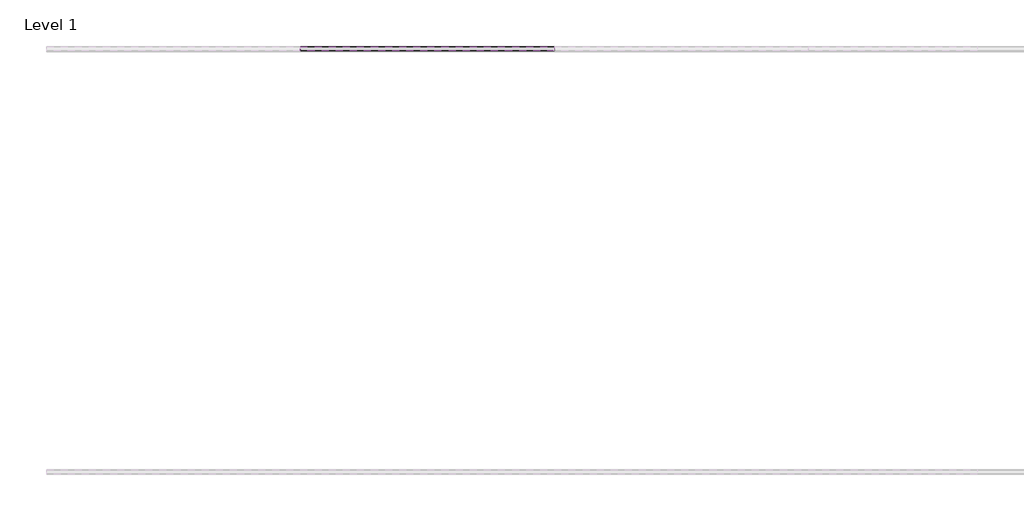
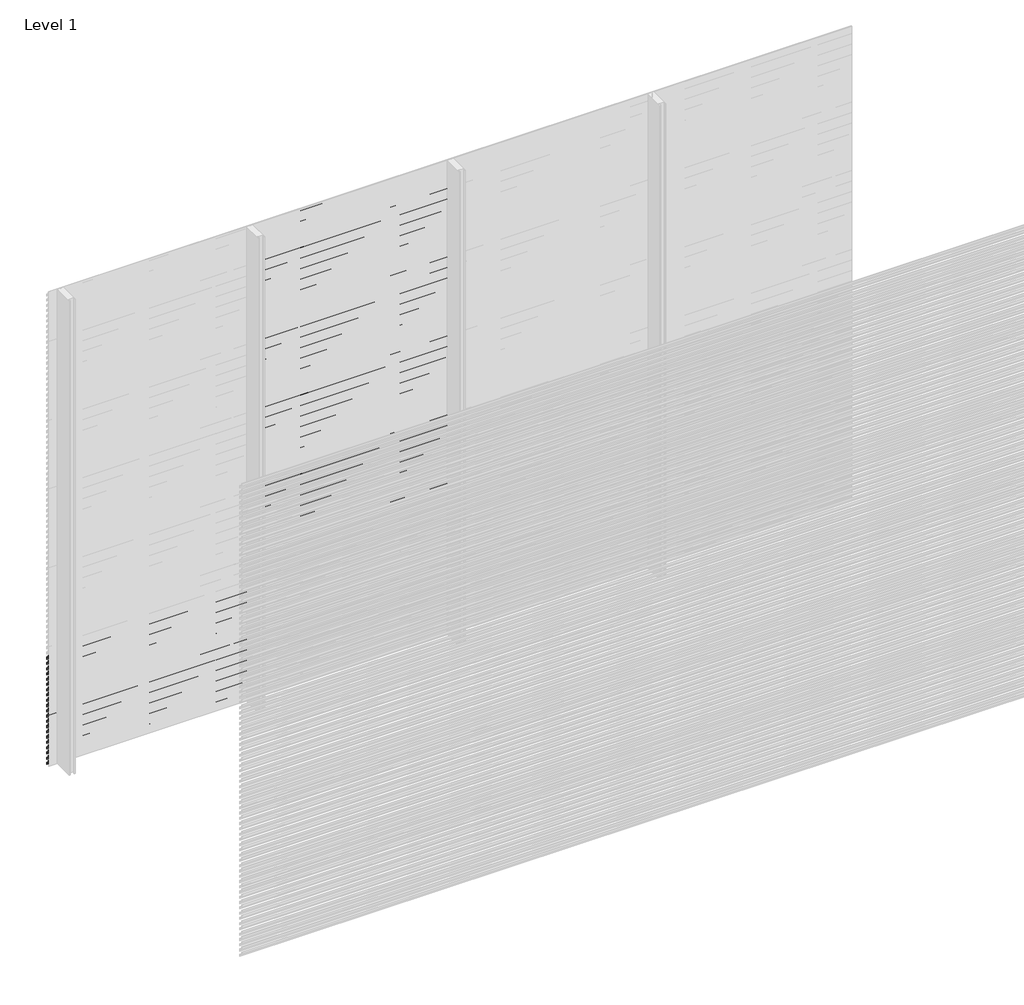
# One storey, part 18 of 507: 84 proxies.
"""IFC4 building model written with IfcOpenShell, lengths in millimetres."""

import ifcopenshell
import ifcopenshell.guid

model = None  # the IFC model being written
_history = None  # IfcOwnerHistory: only IFC2X3 demands one
_inside = {}  # id of a spatial element -> (the spatial element, [elements in it])
_under = {}  # id of a project, library or spatial element -> (it, [spatial elements below it])
_declared = {}  # id of a project -> (the project, [libraries it declares])
_typed = {}  # id of a type object -> (the type object, [elements of that type])
_made_of = {}  # id of a material, layer set ... -> (it, [elements and type objects made of it])


def new_model(schema):
    """Start an empty IFC model of exactly this schema.

    Asked for "IFC4X3", IfcOpenShell would pick the latest addendum, in which some entities
    have other attributes; the version numbers below select the first issue.
    IFC2X3 requires an IfcOwnerHistory on every rooted entity: one is made here for all.
    """
    global model, _history
    if schema == "IFC4X3":
        model = ifcopenshell.file(schema_version=(4, 3, 0, 0))
    else:
        model = ifcopenshell.file(schema=schema)
    _inside.clear()
    _under.clear()
    _declared.clear()
    _typed.clear()
    _made_of.clear()
    _history = None
    if model.schema == "IFC2X3":
        org = make("IfcOrganization", Name="unknown")
        user = make(
            "IfcPersonAndOrganization",
            ThePerson=make("IfcPerson", FamilyName="unknown"),
            TheOrganization=org,
        )
        app = make(
            "IfcApplication",
            ApplicationDeveloper=org,
            Version="unknown",
            ApplicationFullName="unknown",
            ApplicationIdentifier="unknown",
        )
        _history = make(
            "IfcOwnerHistory",
            OwningUser=user,
            OwningApplication=app,
            ChangeAction="ADDED",
            CreationDate=0,
        )
    return model


def make(cls, **values):
    """One entity of the class cls with the attributes given. An attribute that is None is left unset."""
    return model.create_entity(
        cls, **{name: value for name, value in values.items() if value is not None}
    )


def rooted(cls, **values):
    """An entity with a GlobalId (a new one), such as an element, a storey or a relation."""
    return make(cls, GlobalId=ifcopenshell.guid.new(), OwnerHistory=_history, **values)


def si_unit(unit_type, name, prefix=None):
    """IfcSIUnit, for example si_unit("LENGTHUNIT", "METRE", prefix="MILLI")."""
    return make("IfcSIUnit", UnitType=unit_type, Prefix=prefix, Name=name)


def assignment(units):
    """IfcUnitAssignment: the units of a project."""
    return None if units is None else make("IfcUnitAssignment", Units=units)


def point(xyz):
    """IfcCartesianPoint."""
    return None if xyz is None else make("IfcCartesianPoint", Coordinates=xyz)


def direction(xyz):
    """IfcDirection."""
    return None if xyz is None else make("IfcDirection", DirectionRatios=xyz)


def frame(location, z_axis=None, x_axis=None):
    """IfcAxis2Placement3D, a coordinate frame: its origin and axes. An axis left out is left unset."""
    return make(
        "IfcAxis2Placement3D",
        Location=point(location),
        Axis=direction(z_axis),
        RefDirection=direction(x_axis),
    )


def origin():
    """The frame at (0, 0, 0) with its axes left unset."""
    return frame((0.0, 0.0, 0.0))


def place(relative_to, where):
    """IfcLocalPlacement: puts the frame where relative to a parent placement (None: the world)."""
    return make(
        "IfcLocalPlacement", PlacementRelTo=relative_to, RelativePlacement=where
    )


def context(
    kind, dimensions, precision=None, world=None, true_north=None, identifier=None
):
    """IfcGeometricRepresentationContext, for example the 3D "Model" context."""
    return make(
        "IfcGeometricRepresentationContext",
        ContextIdentifier=identifier,
        ContextType=kind,
        CoordinateSpaceDimension=dimensions,
        Precision=precision,
        WorldCoordinateSystem=world,
        TrueNorth=true_north,
    )


def project(units=None, contexts=None):
    """IfcProject with its units and contexts."""
    return rooted(
        "IfcProject",
        Name="project",
        RepresentationContexts=contexts,
        UnitsInContext=assignment(units),
    )


def spatial(cls, under=None, at=None, **own):
    """A site, building, storey or space (cls), placed at a placement, below another one or the project."""
    s = rooted(cls, ObjectPlacement=at, **own)
    if under is not None:
        _under.setdefault(under.id(), (under, []))[1].append(s)
    return s


def polyline(points):
    """IfcPolyline through the points."""
    return make("IfcPolyline", Points=[point(p) for p in points])


def outline(outer, holes=None, kind="AREA"):
    """IfcArbitraryClosedProfileDef: a profile drawn as a closed curve; with holes, ...WithVoids."""
    if holes is None:
        return make("IfcArbitraryClosedProfileDef", ProfileType=kind, OuterCurve=outer)
    return make(
        "IfcArbitraryProfileDefWithVoids",
        ProfileType=kind,
        OuterCurve=outer,
        InnerCurves=holes,
    )


def extrude(swept, where, along, depth):
    """IfcExtrudedAreaSolid: the profile swept, set in the frame where, extruded along a direction by depth."""
    return make(
        "IfcExtrudedAreaSolid",
        SweptArea=swept,
        Position=where,
        ExtrudedDirection=direction(along),
        Depth=depth,
    )


def shape(context_of_items, identifier, shape_type, items):
    """IfcShapeRepresentation: the items that make up one representation, for example the "Body"."""
    return make(
        "IfcShapeRepresentation",
        ContextOfItems=context_of_items,
        RepresentationIdentifier=identifier,
        RepresentationType=shape_type,
        Items=items,
    )


def made_of(thing, what):
    """Note that an element or type object is made of a material, layer set ...; save() writes the relation."""
    if what is not None:
        _made_of.setdefault(what.id(), (what, []))[1].append(thing)
    return thing


def element(
    cls,
    number,
    at=None,
    inside=None,
    cuts=None,
    type_object=None,
    material=None,
    context=None,
    identifier="Body",
    shape_type=None,
    held_by="IfcProductDefinitionShape",
    body=None,
    shapes=None,
    **own,
):
    """One element of the class cls, such as IfcWall. Its Tag is "e" and its number.

    at: its placement. inside: the storey or other place that contains it. cuts: it is an
    opening in that element (IfcRelVoidsElement). A single representation is given by context,
    identifier, shape_type and body (its items); several are given by shapes. held_by: the class
    of the entity that holds the representations. save() writes the other relations.
    """
    e = rooted(cls, Tag="e%d" % number, ObjectPlacement=at, **own)
    if body is not None:
        shapes = [shape(context, identifier, shape_type, body)]
    if shapes is not None:
        e.Representation = make(held_by, Representations=shapes)
    if inside is not None:
        _inside.setdefault(inside.id(), (inside, []))[1].append(e)
    if cuts is not None:
        rooted(
            "IfcRelVoidsElement", RelatingBuildingElement=cuts, RelatedOpeningElement=e
        )
    if type_object is not None:
        _typed.setdefault(type_object.id(), (type_object, []))[1].append(e)
    return made_of(e, material)


def aggregate(whole, parts):
    """IfcRelAggregates: a whole, such as a stair, and the parts it consists of."""
    return rooted("IfcRelAggregates", RelatingObject=whole, RelatedObjects=parts)


def save(model, path):
    """Write the relations noted so far, then the file.

    IfcRelAggregates (storeys below a building ...), IfcRelContainedInSpatialStructure (elements
    in a storey), IfcRelDefinesByType, IfcRelAssociatesMaterial and IfcRelDeclares: one each for
    every whole, place, type object, material and project.
    """
    for whole, parts in _under.values():
        aggregate(whole, parts)
    for where, things in _inside.values():
        rooted(
            "IfcRelContainedInSpatialStructure",
            RelatedElements=things,
            RelatingStructure=where,
        )
    for kind, things in _typed.values():
        rooted("IfcRelDefinesByType", RelatedObjects=things, RelatingType=kind)
    for what, things in _made_of.values():
        rooted("IfcRelAssociatesMaterial", RelatedObjects=things, RelatingMaterial=what)
    for by, libraries in _declared.values():
        rooted("IfcRelDeclares", RelatingContext=by, RelatedDefinitions=libraries)
    model.write(path)


model = new_model("IFC4")

# Units and contexts
model_context = context("Model", 3, world=origin())
ifc_project = project(units=[si_unit("LENGTHUNIT", "METRE", prefix="MILLI")], contexts=[model_context])

# Site, building, storey
site = spatial("IfcSite", under=ifc_project)
building = spatial("IfcBuilding", under=site)
storey = spatial("IfcBuildingStorey", under=building, Name="Level 1", Elevation=0.0)

# Proxies
placement = place(None, origin())
element("IfcBuildingElementProxy", 1, Name="Wall Sweeps", at=placement, inside=storey, context=model_context, shape_type="SweptSolid", body=[
    extrude(outline(polyline([(14003.4540136, 675.3), (14003.4540136, 661.8), (14002.2040136, 662.5216933), (14002.2040136, 674.5782281), (13983.0540136, 685.6345698), (13983.0540136, 699.3), (13984.3040136, 699.3), (13984.3040136, 686.3562577), (14003.4540136, 675.3)])), frame((44966.6208097, 0.0, 0.0), z_axis=(1.0, 0.0, 0.0), x_axis=(0.0, 1.0, 0.0)), (0.0, 0.0, 1.0), 1200.0000002),
])
element("IfcBuildingElementProxy", 2, Name="Wall Sweeps", at=placement, inside=storey, context=model_context, shape_type="SweptSolid", body=[
    extrude(outline(polyline([(14003.4540136, 642.0), (14003.4540136, 628.5), (14002.2040136, 629.2216933), (14002.2040136, 641.2782281), (13983.0540136, 652.3345698), (13983.0540136, 666.0), (13984.3040136, 666.0), (13984.3040136, 653.0562577), (14003.4540136, 642.0)])), frame((44966.6208097, 0.0, 0.0), z_axis=(1.0, 0.0, 0.0), x_axis=(0.0, 1.0, 0.0)), (0.0, 0.0, 1.0), 1200.0000002),
])
element("IfcBuildingElementProxy", 3, Name="Wall Sweeps", at=placement, inside=storey, context=model_context, shape_type="SweptSolid", body=[
    extrude(outline(polyline([(14003.4540136, 608.7), (14003.4540136, 595.2), (14002.2040136, 595.9216933), (14002.2040136, 607.9782281), (13983.0540136, 619.0345698), (13983.0540136, 632.7), (13984.3040136, 632.7), (13984.3040136, 619.7562577), (14003.4540136, 608.7)])), frame((44966.6208097, 0.0, 0.0), z_axis=(1.0, 0.0, 0.0), x_axis=(0.0, 1.0, 0.0)), (0.0, 0.0, 1.0), 1200.0000002),
])
element("IfcBuildingElementProxy", 4, Name="Wall Sweeps", at=placement, inside=storey, context=model_context, shape_type="SweptSolid", body=[
    extrude(outline(polyline([(14003.4540136, 575.4), (14003.4540136, 561.9), (14002.2040136, 562.6216933), (14002.2040136, 574.6782281), (13983.0540136, 585.7345698), (13983.0540136, 599.4), (13984.3040136, 599.4), (13984.3040136, 586.4562577), (14003.4540136, 575.4)])), frame((44966.6208097, 0.0, 0.0), z_axis=(1.0, 0.0, 0.0), x_axis=(0.0, 1.0, 0.0)), (0.0, 0.0, 1.0), 1200.0000002),
])
element("IfcBuildingElementProxy", 5, Name="Wall Sweeps", at=placement, inside=storey, context=model_context, shape_type="SweptSolid", body=[
    extrude(outline(polyline([(14003.4540136, 542.1), (14003.4540136, 528.6), (14002.2040136, 529.3216933), (14002.2040136, 541.3782281), (13983.0540136, 552.4345698), (13983.0540136, 566.1), (13984.3040136, 566.1), (13984.3040136, 553.1562577), (14003.4540136, 542.1)])), frame((44966.6208097, 0.0, 0.0), z_axis=(1.0, 0.0, 0.0), x_axis=(0.0, 1.0, 0.0)), (0.0, 0.0, 1.0), 1200.0000002),
])
element("IfcBuildingElementProxy", 6, Name="Wall Sweeps", at=placement, inside=storey, context=model_context, shape_type="SweptSolid", body=[
    extrude(outline(polyline([(14003.4540136, 508.8), (14003.4540136, 495.3), (14002.2040136, 496.0216933), (14002.2040136, 508.0782281), (13983.0540136, 519.1345698), (13983.0540136, 532.8), (13984.3040136, 532.8), (13984.3040136, 519.8562577), (14003.4540136, 508.8)])), frame((44966.6208097, 0.0, 0.0), z_axis=(1.0, 0.0, 0.0), x_axis=(0.0, 1.0, 0.0)), (0.0, 0.0, 1.0), 1200.0000002),
])
element("IfcBuildingElementProxy", 7, Name="Wall Sweeps", at=placement, inside=storey, context=model_context, shape_type="SweptSolid", body=[
    extrude(outline(polyline([(14003.4540136, 475.5), (14003.4540136, 462.0), (14002.2040136, 462.7216933), (14002.2040136, 474.7782281), (13983.0540136, 485.8345698), (13983.0540136, 499.5), (13984.3040136, 499.5), (13984.3040136, 486.5562577), (14003.4540136, 475.5)])), frame((44966.6208097, 0.0, 0.0), z_axis=(1.0, 0.0, 0.0), x_axis=(0.0, 1.0, 0.0)), (0.0, 0.0, 1.0), 1200.0000002),
])
element("IfcBuildingElementProxy", 8, Name="Wall Sweeps", at=placement, inside=storey, context=model_context, shape_type="SweptSolid", body=[
    extrude(outline(polyline([(14003.4540136, 442.2), (14003.4540136, 428.7), (14002.2040136, 429.4216933), (14002.2040136, 441.4782281), (13983.0540136, 452.5345698), (13983.0540136, 466.2), (13984.3040136, 466.2), (13984.3040136, 453.2562577), (14003.4540136, 442.2)])), frame((44966.6208097, 0.0, 0.0), z_axis=(1.0, 0.0, 0.0), x_axis=(0.0, 1.0, 0.0)), (0.0, 0.0, 1.0), 1200.0000002),
])
element("IfcBuildingElementProxy", 9, Name="Wall Sweeps", at=placement, inside=storey, context=model_context, shape_type="SweptSolid", body=[
    extrude(outline(polyline([(14003.4540136, 408.9), (14003.4540136, 395.4), (14002.2040136, 396.1216933), (14002.2040136, 408.1782281), (13983.0540136, 419.2345698), (13983.0540136, 432.9), (13984.3040136, 432.9), (13984.3040136, 419.9562577), (14003.4540136, 408.9)])), frame((44966.6208097, 0.0, 0.0), z_axis=(1.0, 0.0, 0.0), x_axis=(0.0, 1.0, 0.0)), (0.0, 0.0, 1.0), 1200.0000002),
])
element("IfcBuildingElementProxy", 10, Name="Wall Sweeps", at=placement, inside=storey, context=model_context, shape_type="SweptSolid", body=[
    extrude(outline(polyline([(14003.4540136, 375.6), (14003.4540136, 362.1), (14002.2040136, 362.8216933), (14002.2040136, 374.8782281), (13983.0540136, 385.9345698), (13983.0540136, 399.6), (13984.3040136, 399.6), (13984.3040136, 386.6562577), (14003.4540136, 375.6)])), frame((44966.6208097, 0.0, 0.0), z_axis=(1.0, 0.0, 0.0), x_axis=(0.0, 1.0, 0.0)), (0.0, 0.0, 1.0), 1200.0000002),
])
element("IfcBuildingElementProxy", 11, Name="Wall Sweeps", at=placement, inside=storey, context=model_context, shape_type="SweptSolid", body=[
    extrude(outline(polyline([(14003.4540136, 342.3), (14003.4540136, 328.8), (14002.2040136, 329.5216933), (14002.2040136, 341.5782281), (13983.0540136, 352.6345698), (13983.0540136, 366.3), (13984.3040136, 366.3), (13984.3040136, 353.3562577), (14003.4540136, 342.3)])), frame((44966.6208097, 0.0, 0.0), z_axis=(1.0, 0.0, 0.0), x_axis=(0.0, 1.0, 0.0)), (0.0, 0.0, 1.0), 1200.0000002),
])
element("IfcBuildingElementProxy", 12, Name="Wall Sweeps", at=placement, inside=storey, context=model_context, shape_type="SweptSolid", body=[
    extrude(outline(polyline([(14003.4540136, 309.0), (14003.4540136, 295.5), (14002.2040136, 296.2216933), (14002.2040136, 308.2782281), (13983.0540136, 319.3345698), (13983.0540136, 333.0), (13984.3040136, 333.0), (13984.3040136, 320.0562577), (14003.4540136, 309.0)])), frame((44966.6208097, 0.0, 0.0), z_axis=(1.0, 0.0, 0.0), x_axis=(0.0, 1.0, 0.0)), (0.0, 0.0, 1.0), 1200.0000002),
])
element("IfcBuildingElementProxy", 13, Name="Wall Sweeps", at=placement, inside=storey, context=model_context, shape_type="SweptSolid", body=[
    extrude(outline(polyline([(14003.4540136, 275.7), (14003.4540136, 262.2), (14002.2040136, 262.9216933), (14002.2040136, 274.9782281), (13983.0540136, 286.0345698), (13983.0540136, 299.7), (13984.3040136, 299.7), (13984.3040136, 286.7562577), (14003.4540136, 275.7)])), frame((44966.6208097, 0.0, 0.0), z_axis=(1.0, 0.0, 0.0), x_axis=(0.0, 1.0, 0.0)), (0.0, 0.0, 1.0), 1200.0000002),
])
element("IfcBuildingElementProxy", 14, Name="Wall Sweeps", at=placement, inside=storey, context=model_context, shape_type="SweptSolid", body=[
    extrude(outline(polyline([(14003.4540136, 242.4), (14003.4540136, 228.9), (14002.2040136, 229.6216933), (14002.2040136, 241.6782281), (13983.0540136, 252.7345698), (13983.0540136, 266.4), (13984.3040136, 266.4), (13984.3040136, 253.4562577), (14003.4540136, 242.4)])), frame((44966.6208097, 0.0, 0.0), z_axis=(1.0, 0.0, 0.0), x_axis=(0.0, 1.0, 0.0)), (0.0, 0.0, 1.0), 1200.0000002),
])
element("IfcBuildingElementProxy", 15, Name="Wall Sweeps", at=placement, inside=storey, context=model_context, shape_type="SweptSolid", body=[
    extrude(outline(polyline([(14003.4540136, 209.1), (14003.4540136, 195.6), (14002.2040136, 196.3216933), (14002.2040136, 208.3782281), (13983.0540136, 219.4345698), (13983.0540136, 233.1), (13984.3040136, 233.1), (13984.3040136, 220.1562577), (14003.4540136, 209.1)])), frame((44966.6208097, 0.0, 0.0), z_axis=(1.0, 0.0, 0.0), x_axis=(0.0, 1.0, 0.0)), (0.0, 0.0, 1.0), 1200.0000002),
])
element("IfcBuildingElementProxy", 16, Name="Wall Sweeps", at=placement, inside=storey, context=model_context, shape_type="SweptSolid", body=[
    extrude(outline(polyline([(14003.4540136, 175.8), (14003.4540136, 162.3), (14002.2040136, 163.0216933), (14002.2040136, 175.0782281), (13983.0540136, 186.1345698), (13983.0540136, 199.8), (13984.3040136, 199.8), (13984.3040136, 186.8562577), (14003.4540136, 175.8)])), frame((44966.6208097, 0.0, 0.0), z_axis=(1.0, 0.0, 0.0), x_axis=(0.0, 1.0, 0.0)), (0.0, 0.0, 1.0), 1200.0000002),
])
element("IfcBuildingElementProxy", 17, Name="Wall Sweeps", at=placement, inside=storey, context=model_context, shape_type="SweptSolid", body=[
    extrude(outline(polyline([(14003.4540136, 142.5), (14003.4540136, 129.0), (14002.2040136, 129.7216933), (14002.2040136, 141.7782281), (13983.0540136, 152.8345698), (13983.0540136, 166.5), (13984.3040136, 166.5), (13984.3040136, 153.5562577), (14003.4540136, 142.5)])), frame((44966.6208097, 0.0, 0.0), z_axis=(1.0, 0.0, 0.0), x_axis=(0.0, 1.0, 0.0)), (0.0, 0.0, 1.0), 1200.0000002),
])
element("IfcBuildingElementProxy", 18, Name="Wall Sweeps", at=placement, inside=storey, context=model_context, shape_type="SweptSolid", body=[
    extrude(outline(polyline([(14003.4540136, 109.2), (14003.4540136, 95.7), (14002.2040136, 96.4216933), (14002.2040136, 108.4782281), (13983.0540136, 119.5345698), (13983.0540136, 133.2), (13984.3040136, 133.2), (13984.3040136, 120.2562577), (14003.4540136, 109.2)])), frame((44966.6208097, 0.0, 0.0), z_axis=(1.0, 0.0, 0.0), x_axis=(0.0, 1.0, 0.0)), (0.0, 0.0, 1.0), 1200.0000002),
])
element("IfcBuildingElementProxy", 19, Name="Wall Sweeps", at=placement, inside=storey, context=model_context, shape_type="SweptSolid", body=[
    extrude(outline(polyline([(14003.4540136, 75.9), (14003.4540136, 62.4), (14002.2040136, 63.1216933), (14002.2040136, 75.1782281), (13983.0540136, 86.2345698), (13983.0540136, 99.9), (13984.3040136, 99.9), (13984.3040136, 86.9562577), (14003.4540136, 75.9)])), frame((44966.6208097, 0.0, 0.0), z_axis=(1.0, 0.0, 0.0), x_axis=(0.0, 1.0, 0.0)), (0.0, 0.0, 1.0), 1200.0000002),
])
element("IfcBuildingElementProxy", 20, Name="Wall Sweeps", at=placement, inside=storey, context=model_context, shape_type="SweptSolid", body=[
    extrude(outline(polyline([(14003.4540136, 42.6), (14003.4540136, 29.1), (14002.2040136, 29.8216933), (14002.2040136, 41.8782281), (13983.0540136, 52.9345698), (13983.0540136, 66.6), (13984.3040136, 66.6), (13984.3040136, 53.6562577), (14003.4540136, 42.6)])), frame((44966.6208097, 0.0, 0.0), z_axis=(1.0, 0.0, 0.0), x_axis=(0.0, 1.0, 0.0)), (0.0, 0.0, 1.0), 1200.0000002),
])
element("IfcBuildingElementProxy", 21, Name="Wall Sweeps", at=placement, inside=storey, context=model_context, shape_type="SweptSolid", body=[
    extrude(outline(polyline([(14003.4540136, 9.3), (14003.4540136, -4.2), (14002.2040136, -3.4783067), (14002.2040136, 8.5782281), (13983.0540136, 19.6345698), (13983.0540136, 33.3), (13984.3040136, 33.3), (13984.3040136, 20.3562577), (14003.4540136, 9.3)])), frame((44966.6208097, 0.0, 0.0), z_axis=(1.0, 0.0, 0.0), x_axis=(0.0, 1.0, 0.0)), (0.0, 0.0, 1.0), 1200.0000002),
])
element("IfcBuildingElementProxy", 22, Name="Wall Sweeps", at=placement, inside=storey, context=model_context, shape_type="SweptSolid", body=[
    extrude(outline(polyline([(14003.4540136, 2973.0), (14003.4540136, 2959.5), (14002.2040136, 2960.2216933), (14002.2040136, 2972.2782281), (13983.0540136, 2983.3345698), (13983.0540136, 2997.0), (13984.3040136, 2997.0), (13984.3040136, 2984.0562577), (14003.4540136, 2973.0)])), frame((46166.6208099, 0.0, 0.0), z_axis=(1.0, 0.0, 0.0), x_axis=(0.0, 1.0, 0.0)), (0.0, 0.0, 1.0), 1199.9999999),
])
element("IfcBuildingElementProxy", 23, Name="Wall Sweeps", at=placement, inside=storey, context=model_context, shape_type="SweptSolid", body=[
    extrude(outline(polyline([(14003.4540136, 2939.7), (14003.4540136, 2926.2), (14002.2040136, 2926.9216933), (14002.2040136, 2938.9782281), (13983.0540136, 2950.0345698), (13983.0540136, 2963.7), (13984.3040136, 2963.7), (13984.3040136, 2950.7562577), (14003.4540136, 2939.7)])), frame((46166.6208099, 0.0, 0.0), z_axis=(1.0, 0.0, 0.0), x_axis=(0.0, 1.0, 0.0)), (0.0, 0.0, 1.0), 1199.9999999),
])
element("IfcBuildingElementProxy", 24, Name="Wall Sweeps", at=placement, inside=storey, context=model_context, shape_type="SweptSolid", body=[
    extrude(outline(polyline([(14003.4540136, 2906.4), (14003.4540136, 2892.9), (14002.2040136, 2893.6216933), (14002.2040136, 2905.6782281), (13983.0540136, 2916.7345698), (13983.0540136, 2930.4), (13984.3040136, 2930.4), (13984.3040136, 2917.4562577), (14003.4540136, 2906.4)])), frame((46166.6208099, 0.0, 0.0), z_axis=(1.0, 0.0, 0.0), x_axis=(0.0, 1.0, 0.0)), (0.0, 0.0, 1.0), 1199.9999999),
])
element("IfcBuildingElementProxy", 25, Name="Wall Sweeps", at=placement, inside=storey, context=model_context, shape_type="SweptSolid", body=[
    extrude(outline(polyline([(14003.4540136, 2873.1), (14003.4540136, 2859.6), (14002.2040136, 2860.3216933), (14002.2040136, 2872.3782281), (13983.0540136, 2883.4345698), (13983.0540136, 2897.1), (13984.3040136, 2897.1), (13984.3040136, 2884.1562577), (14003.4540136, 2873.1)])), frame((46166.6208099, 0.0, 0.0), z_axis=(1.0, 0.0, 0.0), x_axis=(0.0, 1.0, 0.0)), (0.0, 0.0, 1.0), 1199.9999999),
])
element("IfcBuildingElementProxy", 26, Name="Wall Sweeps", at=placement, inside=storey, context=model_context, shape_type="SweptSolid", body=[
    extrude(outline(polyline([(14003.4540136, 2839.8), (14003.4540136, 2826.3), (14002.2040136, 2827.0216933), (14002.2040136, 2839.0782281), (13983.0540136, 2850.1345698), (13983.0540136, 2863.8), (13984.3040136, 2863.8), (13984.3040136, 2850.8562577), (14003.4540136, 2839.8)])), frame((46166.6208099, 0.0, 0.0), z_axis=(1.0, 0.0, 0.0), x_axis=(0.0, 1.0, 0.0)), (0.0, 0.0, 1.0), 1199.9999999),
])
element("IfcBuildingElementProxy", 27, Name="Wall Sweeps", at=placement, inside=storey, context=model_context, shape_type="SweptSolid", body=[
    extrude(outline(polyline([(14003.4540136, 2806.5), (14003.4540136, 2793.0), (14002.2040136, 2793.7216933), (14002.2040136, 2805.7782281), (13983.0540136, 2816.8345698), (13983.0540136, 2830.5), (13984.3040136, 2830.5), (13984.3040136, 2817.5562577), (14003.4540136, 2806.5)])), frame((46166.6208099, 0.0, 0.0), z_axis=(1.0, 0.0, 0.0), x_axis=(0.0, 1.0, 0.0)), (0.0, 0.0, 1.0), 1199.9999999),
])
element("IfcBuildingElementProxy", 28, Name="Wall Sweeps", at=placement, inside=storey, context=model_context, shape_type="SweptSolid", body=[
    extrude(outline(polyline([(14003.4540136, 2773.2), (14003.4540136, 2759.7), (14002.2040136, 2760.4216933), (14002.2040136, 2772.4782281), (13983.0540136, 2783.5345698), (13983.0540136, 2797.2), (13984.3040136, 2797.2), (13984.3040136, 2784.2562577), (14003.4540136, 2773.2)])), frame((46166.6208099, 0.0, 0.0), z_axis=(1.0, 0.0, 0.0), x_axis=(0.0, 1.0, 0.0)), (0.0, 0.0, 1.0), 1199.9999999),
])
element("IfcBuildingElementProxy", 29, Name="Wall Sweeps", at=placement, inside=storey, context=model_context, shape_type="SweptSolid", body=[
    extrude(outline(polyline([(14003.4540136, 2739.9), (14003.4540136, 2726.4), (14002.2040136, 2727.1216933), (14002.2040136, 2739.1782281), (13983.0540136, 2750.2345698), (13983.0540136, 2763.9), (13984.3040136, 2763.9), (13984.3040136, 2750.9562577), (14003.4540136, 2739.9)])), frame((46166.6208099, 0.0, 0.0), z_axis=(1.0, 0.0, 0.0), x_axis=(0.0, 1.0, 0.0)), (0.0, 0.0, 1.0), 1199.9999999),
])
element("IfcBuildingElementProxy", 30, Name="Wall Sweeps", at=placement, inside=storey, context=model_context, shape_type="SweptSolid", body=[
    extrude(outline(polyline([(14003.4540136, 2706.6), (14003.4540136, 2693.1), (14002.2040136, 2693.8216933), (14002.2040136, 2705.8782281), (13983.0540136, 2716.9345698), (13983.0540136, 2730.6), (13984.3040136, 2730.6), (13984.3040136, 2717.6562577), (14003.4540136, 2706.6)])), frame((46166.6208099, 0.0, 0.0), z_axis=(1.0, 0.0, 0.0), x_axis=(0.0, 1.0, 0.0)), (0.0, 0.0, 1.0), 1199.9999999),
])
element("IfcBuildingElementProxy", 31, Name="Wall Sweeps", at=placement, inside=storey, context=model_context, shape_type="SweptSolid", body=[
    extrude(outline(polyline([(14003.4540136, 2673.3), (14003.4540136, 2659.8), (14002.2040136, 2660.5216933), (14002.2040136, 2672.5782281), (13983.0540136, 2683.6345698), (13983.0540136, 2697.3), (13984.3040136, 2697.3), (13984.3040136, 2684.3562577), (14003.4540136, 2673.3)])), frame((46166.6208099, 0.0, 0.0), z_axis=(1.0, 0.0, 0.0), x_axis=(0.0, 1.0, 0.0)), (0.0, 0.0, 1.0), 1199.9999999),
])
element("IfcBuildingElementProxy", 32, Name="Wall Sweeps", at=placement, inside=storey, context=model_context, shape_type="SweptSolid", body=[
    extrude(outline(polyline([(14003.4540136, 2640.0), (14003.4540136, 2626.5), (14002.2040136, 2627.2216933), (14002.2040136, 2639.2782281), (13983.0540136, 2650.3345698), (13983.0540136, 2664.0), (13984.3040136, 2664.0), (13984.3040136, 2651.0562577), (14003.4540136, 2640.0)])), frame((46166.6208099, 0.0, 0.0), z_axis=(1.0, 0.0, 0.0), x_axis=(0.0, 1.0, 0.0)), (0.0, 0.0, 1.0), 1199.9999999),
])
element("IfcBuildingElementProxy", 33, Name="Wall Sweeps", at=placement, inside=storey, context=model_context, shape_type="SweptSolid", body=[
    extrude(outline(polyline([(14003.4540136, 2606.7), (14003.4540136, 2593.2), (14002.2040136, 2593.9216933), (14002.2040136, 2605.9782281), (13983.0540136, 2617.0345698), (13983.0540136, 2630.7), (13984.3040136, 2630.7), (13984.3040136, 2617.7562577), (14003.4540136, 2606.7)])), frame((46166.6208099, 0.0, 0.0), z_axis=(1.0, 0.0, 0.0), x_axis=(0.0, 1.0, 0.0)), (0.0, 0.0, 1.0), 1199.9999999),
])
element("IfcBuildingElementProxy", 34, Name="Wall Sweeps", at=placement, inside=storey, context=model_context, shape_type="SweptSolid", body=[
    extrude(outline(polyline([(14003.4540136, 2573.4), (14003.4540136, 2559.9), (14002.2040136, 2560.6216933), (14002.2040136, 2572.6782281), (13983.0540136, 2583.7345698), (13983.0540136, 2597.4), (13984.3040136, 2597.4), (13984.3040136, 2584.4562577), (14003.4540136, 2573.4)])), frame((46166.6208099, 0.0, 0.0), z_axis=(1.0, 0.0, 0.0), x_axis=(0.0, 1.0, 0.0)), (0.0, 0.0, 1.0), 1199.9999999),
])
element("IfcBuildingElementProxy", 35, Name="Wall Sweeps", at=placement, inside=storey, context=model_context, shape_type="SweptSolid", body=[
    extrude(outline(polyline([(14003.4540136, 2540.1), (14003.4540136, 2526.6), (14002.2040136, 2527.3216933), (14002.2040136, 2539.3782281), (13983.0540136, 2550.4345698), (13983.0540136, 2564.1), (13984.3040136, 2564.1), (13984.3040136, 2551.1562577), (14003.4540136, 2540.1)])), frame((46166.6208099, 0.0, 0.0), z_axis=(1.0, 0.0, 0.0), x_axis=(0.0, 1.0, 0.0)), (0.0, 0.0, 1.0), 1199.9999999),
])
element("IfcBuildingElementProxy", 36, Name="Wall Sweeps", at=placement, inside=storey, context=model_context, shape_type="SweptSolid", body=[
    extrude(outline(polyline([(14003.4540136, 2506.8), (14003.4540136, 2493.3), (14002.2040136, 2494.0216933), (14002.2040136, 2506.0782281), (13983.0540136, 2517.1345698), (13983.0540136, 2530.8), (13984.3040136, 2530.8), (13984.3040136, 2517.8562577), (14003.4540136, 2506.8)])), frame((46166.6208099, 0.0, 0.0), z_axis=(1.0, 0.0, 0.0), x_axis=(0.0, 1.0, 0.0)), (0.0, 0.0, 1.0), 1199.9999999),
])
element("IfcBuildingElementProxy", 37, Name="Wall Sweeps", at=placement, inside=storey, context=model_context, shape_type="SweptSolid", body=[
    extrude(outline(polyline([(14003.4540136, 2473.5), (14003.4540136, 2460.0), (14002.2040136, 2460.7216933), (14002.2040136, 2472.7782281), (13983.0540136, 2483.8345698), (13983.0540136, 2497.5), (13984.3040136, 2497.5), (13984.3040136, 2484.5562577), (14003.4540136, 2473.5)])), frame((46166.6208099, 0.0, 0.0), z_axis=(1.0, 0.0, 0.0), x_axis=(0.0, 1.0, 0.0)), (0.0, 0.0, 1.0), 1199.9999999),
])
element("IfcBuildingElementProxy", 38, Name="Wall Sweeps", at=placement, inside=storey, context=model_context, shape_type="SweptSolid", body=[
    extrude(outline(polyline([(14003.4540136, 2440.2), (14003.4540136, 2426.7), (14002.2040136, 2427.4216933), (14002.2040136, 2439.4782281), (13983.0540136, 2450.5345698), (13983.0540136, 2464.2), (13984.3040136, 2464.2), (13984.3040136, 2451.2562577), (14003.4540136, 2440.2)])), frame((46166.6208099, 0.0, 0.0), z_axis=(1.0, 0.0, 0.0), x_axis=(0.0, 1.0, 0.0)), (0.0, 0.0, 1.0), 1199.9999999),
])
element("IfcBuildingElementProxy", 39, Name="Wall Sweeps", at=placement, inside=storey, context=model_context, shape_type="SweptSolid", body=[
    extrude(outline(polyline([(14003.4540136, 2406.9), (14003.4540136, 2393.4), (14002.2040136, 2394.1216933), (14002.2040136, 2406.1782281), (13983.0540136, 2417.2345698), (13983.0540136, 2430.9), (13984.3040136, 2430.9), (13984.3040136, 2417.9562577), (14003.4540136, 2406.9)])), frame((46166.6208099, 0.0, 0.0), z_axis=(1.0, 0.0, 0.0), x_axis=(0.0, 1.0, 0.0)), (0.0, 0.0, 1.0), 1199.9999999),
])
element("IfcBuildingElementProxy", 40, Name="Wall Sweeps", at=placement, inside=storey, context=model_context, shape_type="SweptSolid", body=[
    extrude(outline(polyline([(14003.4540136, 2373.6), (14003.4540136, 2360.1), (14002.2040136, 2360.8216933), (14002.2040136, 2372.8782281), (13983.0540136, 2383.9345698), (13983.0540136, 2397.6), (13984.3040136, 2397.6), (13984.3040136, 2384.6562577), (14003.4540136, 2373.6)])), frame((46166.6208099, 0.0, 0.0), z_axis=(1.0, 0.0, 0.0), x_axis=(0.0, 1.0, 0.0)), (0.0, 0.0, 1.0), 1199.9999999),
])
element("IfcBuildingElementProxy", 41, Name="Wall Sweeps", at=placement, inside=storey, context=model_context, shape_type="SweptSolid", body=[
    extrude(outline(polyline([(14003.4540136, 2340.3), (14003.4540136, 2326.8), (14002.2040136, 2327.5216933), (14002.2040136, 2339.5782281), (13983.0540136, 2350.6345698), (13983.0540136, 2364.3), (13984.3040136, 2364.3), (13984.3040136, 2351.3562577), (14003.4540136, 2340.3)])), frame((46166.6208099, 0.0, 0.0), z_axis=(1.0, 0.0, 0.0), x_axis=(0.0, 1.0, 0.0)), (0.0, 0.0, 1.0), 1199.9999999),
])
element("IfcBuildingElementProxy", 42, Name="Wall Sweeps", at=placement, inside=storey, context=model_context, shape_type="SweptSolid", body=[
    extrude(outline(polyline([(14003.4540136, 2307.0), (14003.4540136, 2293.5), (14002.2040136, 2294.2216933), (14002.2040136, 2306.2782281), (13983.0540136, 2317.3345698), (13983.0540136, 2331.0), (13984.3040136, 2331.0), (13984.3040136, 2318.0562577), (14003.4540136, 2307.0)])), frame((46166.6208099, 0.0, 0.0), z_axis=(1.0, 0.0, 0.0), x_axis=(0.0, 1.0, 0.0)), (0.0, 0.0, 1.0), 1199.9999999),
])
element("IfcBuildingElementProxy", 43, Name="Wall Sweeps", at=placement, inside=storey, context=model_context, shape_type="SweptSolid", body=[
    extrude(outline(polyline([(14003.4540136, 2273.7), (14003.4540136, 2260.2), (14002.2040136, 2260.9216933), (14002.2040136, 2272.9782281), (13983.0540136, 2284.0345698), (13983.0540136, 2297.7), (13984.3040136, 2297.7), (13984.3040136, 2284.7562577), (14003.4540136, 2273.7)])), frame((46166.6208099, 0.0, 0.0), z_axis=(1.0, 0.0, 0.0), x_axis=(0.0, 1.0, 0.0)), (0.0, 0.0, 1.0), 1199.9999999),
])
element("IfcBuildingElementProxy", 44, Name="Wall Sweeps", at=placement, inside=storey, context=model_context, shape_type="SweptSolid", body=[
    extrude(outline(polyline([(14003.4540136, 2240.4), (14003.4540136, 2226.9), (14002.2040136, 2227.6216933), (14002.2040136, 2239.6782281), (13983.0540136, 2250.7345698), (13983.0540136, 2264.4), (13984.3040136, 2264.4), (13984.3040136, 2251.4562577), (14003.4540136, 2240.4)])), frame((46166.6208099, 0.0, 0.0), z_axis=(1.0, 0.0, 0.0), x_axis=(0.0, 1.0, 0.0)), (0.0, 0.0, 1.0), 1199.9999999),
])
element("IfcBuildingElementProxy", 45, Name="Wall Sweeps", at=placement, inside=storey, context=model_context, shape_type="SweptSolid", body=[
    extrude(outline(polyline([(14003.4540136, 2207.1), (14003.4540136, 2193.6), (14002.2040136, 2194.3216933), (14002.2040136, 2206.3782281), (13983.0540136, 2217.4345698), (13983.0540136, 2231.1), (13984.3040136, 2231.1), (13984.3040136, 2218.1562577), (14003.4540136, 2207.1)])), frame((46166.6208099, 0.0, 0.0), z_axis=(1.0, 0.0, 0.0), x_axis=(0.0, 1.0, 0.0)), (0.0, 0.0, 1.0), 1199.9999999),
])
element("IfcBuildingElementProxy", 46, Name="Wall Sweeps", at=placement, inside=storey, context=model_context, shape_type="SweptSolid", body=[
    extrude(outline(polyline([(14003.4540136, 2173.8), (14003.4540136, 2160.3), (14002.2040136, 2161.0216933), (14002.2040136, 2173.0782281), (13983.0540136, 2184.1345698), (13983.0540136, 2197.8), (13984.3040136, 2197.8), (13984.3040136, 2184.8562577), (14003.4540136, 2173.8)])), frame((46166.6208099, 0.0, 0.0), z_axis=(1.0, 0.0, 0.0), x_axis=(0.0, 1.0, 0.0)), (0.0, 0.0, 1.0), 1199.9999999),
])
element("IfcBuildingElementProxy", 47, Name="Wall Sweeps", at=placement, inside=storey, context=model_context, shape_type="SweptSolid", body=[
    extrude(outline(polyline([(14003.4540136, 2140.5), (14003.4540136, 2127.0), (14002.2040136, 2127.7216933), (14002.2040136, 2139.7782281), (13983.0540136, 2150.8345698), (13983.0540136, 2164.5), (13984.3040136, 2164.5), (13984.3040136, 2151.5562577), (14003.4540136, 2140.5)])), frame((46166.6208099, 0.0, 0.0), z_axis=(1.0, 0.0, 0.0), x_axis=(0.0, 1.0, 0.0)), (0.0, 0.0, 1.0), 1199.9999999),
])
element("IfcBuildingElementProxy", 48, Name="Wall Sweeps", at=placement, inside=storey, context=model_context, shape_type="SweptSolid", body=[
    extrude(outline(polyline([(14003.4540136, 2107.2), (14003.4540136, 2093.7), (14002.2040136, 2094.4216933), (14002.2040136, 2106.4782281), (13983.0540136, 2117.5345698), (13983.0540136, 2131.2), (13984.3040136, 2131.2), (13984.3040136, 2118.2562577), (14003.4540136, 2107.2)])), frame((46166.6208099, 0.0, 0.0), z_axis=(1.0, 0.0, 0.0), x_axis=(0.0, 1.0, 0.0)), (0.0, 0.0, 1.0), 1199.9999999),
])
element("IfcBuildingElementProxy", 49, Name="Wall Sweeps", at=placement, inside=storey, context=model_context, shape_type="SweptSolid", body=[
    extrude(outline(polyline([(14003.4540136, 2073.9), (14003.4540136, 2060.4), (14002.2040136, 2061.1216933), (14002.2040136, 2073.1782281), (13983.0540136, 2084.2345698), (13983.0540136, 2097.9), (13984.3040136, 2097.9), (13984.3040136, 2084.9562577), (14003.4540136, 2073.9)])), frame((46166.6208099, 0.0, 0.0), z_axis=(1.0, 0.0, 0.0), x_axis=(0.0, 1.0, 0.0)), (0.0, 0.0, 1.0), 1199.9999999),
])
element("IfcBuildingElementProxy", 50, Name="Wall Sweeps", at=placement, inside=storey, context=model_context, shape_type="SweptSolid", body=[
    extrude(outline(polyline([(14003.4540136, 2040.6), (14003.4540136, 2027.1), (14002.2040136, 2027.8216933), (14002.2040136, 2039.8782281), (13983.0540136, 2050.9345698), (13983.0540136, 2064.6), (13984.3040136, 2064.6), (13984.3040136, 2051.6562577), (14003.4540136, 2040.6)])), frame((46166.6208099, 0.0, 0.0), z_axis=(1.0, 0.0, 0.0), x_axis=(0.0, 1.0, 0.0)), (0.0, 0.0, 1.0), 1199.9999999),
])
element("IfcBuildingElementProxy", 51, Name="Wall Sweeps", at=placement, inside=storey, context=model_context, shape_type="SweptSolid", body=[
    extrude(outline(polyline([(14003.4540136, 2007.3), (14003.4540136, 1993.8), (14002.2040136, 1994.5216933), (14002.2040136, 2006.5782281), (13983.0540136, 2017.6345698), (13983.0540136, 2031.3), (13984.3040136, 2031.3), (13984.3040136, 2018.3562577), (14003.4540136, 2007.3)])), frame((46166.6208099, 0.0, 0.0), z_axis=(1.0, 0.0, 0.0), x_axis=(0.0, 1.0, 0.0)), (0.0, 0.0, 1.0), 1199.9999999),
])
element("IfcBuildingElementProxy", 52, Name="Wall Sweeps", at=placement, inside=storey, context=model_context, shape_type="SweptSolid", body=[
    extrude(outline(polyline([(14003.4540136, 1974.0), (14003.4540136, 1960.5), (14002.2040136, 1961.2216933), (14002.2040136, 1973.2782281), (13983.0540136, 1984.3345698), (13983.0540136, 1998.0), (13984.3040136, 1998.0), (13984.3040136, 1985.0562577), (14003.4540136, 1974.0)])), frame((46166.6208099, 0.0, 0.0), z_axis=(1.0, 0.0, 0.0), x_axis=(0.0, 1.0, 0.0)), (0.0, 0.0, 1.0), 1199.9999999),
])
element("IfcBuildingElementProxy", 53, Name="Wall Sweeps", at=placement, inside=storey, context=model_context, shape_type="SweptSolid", body=[
    extrude(outline(polyline([(14003.4540136, 1940.7), (14003.4540136, 1927.2), (14002.2040136, 1927.9216933), (14002.2040136, 1939.9782281), (13983.0540136, 1951.0345698), (13983.0540136, 1964.7), (13984.3040136, 1964.7), (13984.3040136, 1951.7562577), (14003.4540136, 1940.7)])), frame((46166.6208099, 0.0, 0.0), z_axis=(1.0, 0.0, 0.0), x_axis=(0.0, 1.0, 0.0)), (0.0, 0.0, 1.0), 1199.9999999),
])
element("IfcBuildingElementProxy", 54, Name="Wall Sweeps", at=placement, inside=storey, context=model_context, shape_type="SweptSolid", body=[
    extrude(outline(polyline([(14003.4540136, 1907.4), (14003.4540136, 1893.9), (14002.2040136, 1894.6216933), (14002.2040136, 1906.6782281), (13983.0540136, 1917.7345698), (13983.0540136, 1931.4), (13984.3040136, 1931.4), (13984.3040136, 1918.4562577), (14003.4540136, 1907.4)])), frame((46166.6208099, 0.0, 0.0), z_axis=(1.0, 0.0, 0.0), x_axis=(0.0, 1.0, 0.0)), (0.0, 0.0, 1.0), 1199.9999999),
])
element("IfcBuildingElementProxy", 55, Name="Wall Sweeps", at=placement, inside=storey, context=model_context, shape_type="SweptSolid", body=[
    extrude(outline(polyline([(14003.4540136, 1874.1), (14003.4540136, 1860.6), (14002.2040136, 1861.3216933), (14002.2040136, 1873.3782281), (13983.0540136, 1884.4345698), (13983.0540136, 1898.1), (13984.3040136, 1898.1), (13984.3040136, 1885.1562577), (14003.4540136, 1874.1)])), frame((46166.6208099, 0.0, 0.0), z_axis=(1.0, 0.0, 0.0), x_axis=(0.0, 1.0, 0.0)), (0.0, 0.0, 1.0), 1199.9999999),
])
element("IfcBuildingElementProxy", 56, Name="Wall Sweeps", at=placement, inside=storey, context=model_context, shape_type="SweptSolid", body=[
    extrude(outline(polyline([(14003.4540136, 1840.8), (14003.4540136, 1827.3), (14002.2040136, 1828.0216933), (14002.2040136, 1840.0782281), (13983.0540136, 1851.1345698), (13983.0540136, 1864.8), (13984.3040136, 1864.8), (13984.3040136, 1851.8562577), (14003.4540136, 1840.8)])), frame((46166.6208099, 0.0, 0.0), z_axis=(1.0, 0.0, 0.0), x_axis=(0.0, 1.0, 0.0)), (0.0, 0.0, 1.0), 1199.9999999),
])
element("IfcBuildingElementProxy", 57, Name="Wall Sweeps", at=placement, inside=storey, context=model_context, shape_type="SweptSolid", body=[
    extrude(outline(polyline([(14003.4540136, 1807.5), (14003.4540136, 1794.0), (14002.2040136, 1794.7216933), (14002.2040136, 1806.7782281), (13983.0540136, 1817.8345698), (13983.0540136, 1831.5), (13984.3040136, 1831.5), (13984.3040136, 1818.5562577), (14003.4540136, 1807.5)])), frame((46166.6208099, 0.0, 0.0), z_axis=(1.0, 0.0, 0.0), x_axis=(0.0, 1.0, 0.0)), (0.0, 0.0, 1.0), 1199.9999999),
])
element("IfcBuildingElementProxy", 58, Name="Wall Sweeps", at=placement, inside=storey, context=model_context, shape_type="SweptSolid", body=[
    extrude(outline(polyline([(14003.4540136, 1774.2), (14003.4540136, 1760.7), (14002.2040136, 1761.4216933), (14002.2040136, 1773.4782281), (13983.0540136, 1784.5345698), (13983.0540136, 1798.2), (13984.3040136, 1798.2), (13984.3040136, 1785.2562577), (14003.4540136, 1774.2)])), frame((46166.6208099, 0.0, 0.0), z_axis=(1.0, 0.0, 0.0), x_axis=(0.0, 1.0, 0.0)), (0.0, 0.0, 1.0), 1199.9999999),
])
element("IfcBuildingElementProxy", 59, Name="Wall Sweeps", at=placement, inside=storey, context=model_context, shape_type="SweptSolid", body=[
    extrude(outline(polyline([(14003.4540136, 1740.9), (14003.4540136, 1727.4), (14002.2040136, 1728.1216933), (14002.2040136, 1740.1782281), (13983.0540136, 1751.2345698), (13983.0540136, 1764.9), (13984.3040136, 1764.9), (13984.3040136, 1751.9562577), (14003.4540136, 1740.9)])), frame((46166.6208099, 0.0, 0.0), z_axis=(1.0, 0.0, 0.0), x_axis=(0.0, 1.0, 0.0)), (0.0, 0.0, 1.0), 1199.9999999),
])
element("IfcBuildingElementProxy", 60, Name="Wall Sweeps", at=placement, inside=storey, context=model_context, shape_type="SweptSolid", body=[
    extrude(outline(polyline([(14003.4540136, 1707.6), (14003.4540136, 1694.1), (14002.2040136, 1694.8216933), (14002.2040136, 1706.8782281), (13983.0540136, 1717.9345698), (13983.0540136, 1731.6), (13984.3040136, 1731.6), (13984.3040136, 1718.6562577), (14003.4540136, 1707.6)])), frame((46166.6208099, 0.0, 0.0), z_axis=(1.0, 0.0, 0.0), x_axis=(0.0, 1.0, 0.0)), (0.0, 0.0, 1.0), 1199.9999999),
])
element("IfcBuildingElementProxy", 61, Name="Wall Sweeps", at=placement, inside=storey, context=model_context, shape_type="SweptSolid", body=[
    extrude(outline(polyline([(14003.4540136, 1674.3), (14003.4540136, 1660.8), (14002.2040136, 1661.5216933), (14002.2040136, 1673.5782281), (13983.0540136, 1684.6345698), (13983.0540136, 1698.3), (13984.3040136, 1698.3), (13984.3040136, 1685.3562577), (14003.4540136, 1674.3)])), frame((46166.6208099, 0.0, 0.0), z_axis=(1.0, 0.0, 0.0), x_axis=(0.0, 1.0, 0.0)), (0.0, 0.0, 1.0), 1199.9999999),
])
element("IfcBuildingElementProxy", 62, Name="Wall Sweeps", at=placement, inside=storey, context=model_context, shape_type="SweptSolid", body=[
    extrude(outline(polyline([(14003.4540136, 1641.0), (14003.4540136, 1627.5), (14002.2040136, 1628.2216933), (14002.2040136, 1640.2782281), (13983.0540136, 1651.3345698), (13983.0540136, 1665.0), (13984.3040136, 1665.0), (13984.3040136, 1652.0562577), (14003.4540136, 1641.0)])), frame((46166.6208099, 0.0, 0.0), z_axis=(1.0, 0.0, 0.0), x_axis=(0.0, 1.0, 0.0)), (0.0, 0.0, 1.0), 1199.9999999),
])
element("IfcBuildingElementProxy", 63, Name="Wall Sweeps", at=placement, inside=storey, context=model_context, shape_type="SweptSolid", body=[
    extrude(outline(polyline([(14003.4540136, 1607.7), (14003.4540136, 1594.2), (14002.2040136, 1594.9216933), (14002.2040136, 1606.9782281), (13983.0540136, 1618.0345698), (13983.0540136, 1631.7), (13984.3040136, 1631.7), (13984.3040136, 1618.7562577), (14003.4540136, 1607.7)])), frame((46166.6208099, 0.0, 0.0), z_axis=(1.0, 0.0, 0.0), x_axis=(0.0, 1.0, 0.0)), (0.0, 0.0, 1.0), 1199.9999999),
])
element("IfcBuildingElementProxy", 64, Name="Wall Sweeps", at=placement, inside=storey, context=model_context, shape_type="SweptSolid", body=[
    extrude(outline(polyline([(14003.4540136, 1574.4), (14003.4540136, 1560.9), (14002.2040136, 1561.6216933), (14002.2040136, 1573.6782281), (13983.0540136, 1584.7345698), (13983.0540136, 1598.4), (13984.3040136, 1598.4), (13984.3040136, 1585.4562577), (14003.4540136, 1574.4)])), frame((46166.6208099, 0.0, 0.0), z_axis=(1.0, 0.0, 0.0), x_axis=(0.0, 1.0, 0.0)), (0.0, 0.0, 1.0), 1199.9999999),
])
element("IfcBuildingElementProxy", 65, Name="Wall Sweeps", at=placement, inside=storey, context=model_context, shape_type="SweptSolid", body=[
    extrude(outline(polyline([(14003.4540136, 1541.1), (14003.4540136, 1527.6), (14002.2040136, 1528.3216933), (14002.2040136, 1540.3782281), (13983.0540136, 1551.4345698), (13983.0540136, 1565.1), (13984.3040136, 1565.1), (13984.3040136, 1552.1562577), (14003.4540136, 1541.1)])), frame((46166.6208099, 0.0, 0.0), z_axis=(1.0, 0.0, 0.0), x_axis=(0.0, 1.0, 0.0)), (0.0, 0.0, 1.0), 1199.9999999),
])
element("IfcBuildingElementProxy", 66, Name="Wall Sweeps", at=placement, inside=storey, context=model_context, shape_type="SweptSolid", body=[
    extrude(outline(polyline([(14003.4540136, 1507.8), (14003.4540136, 1494.3), (14002.2040136, 1495.0216933), (14002.2040136, 1507.0782281), (13983.0540136, 1518.1345698), (13983.0540136, 1531.8), (13984.3040136, 1531.8), (13984.3040136, 1518.8562577), (14003.4540136, 1507.8)])), frame((46166.6208099, 0.0, 0.0), z_axis=(1.0, 0.0, 0.0), x_axis=(0.0, 1.0, 0.0)), (0.0, 0.0, 1.0), 1199.9999999),
])
element("IfcBuildingElementProxy", 67, Name="Wall Sweeps", at=placement, inside=storey, context=model_context, shape_type="SweptSolid", body=[
    extrude(outline(polyline([(14003.4540136, 1474.5), (14003.4540136, 1461.0), (14002.2040136, 1461.7216933), (14002.2040136, 1473.7782281), (13983.0540136, 1484.8345698), (13983.0540136, 1498.5), (13984.3040136, 1498.5), (13984.3040136, 1485.5562577), (14003.4540136, 1474.5)])), frame((46166.6208099, 0.0, 0.0), z_axis=(1.0, 0.0, 0.0), x_axis=(0.0, 1.0, 0.0)), (0.0, 0.0, 1.0), 1199.9999999),
])
element("IfcBuildingElementProxy", 68, Name="Wall Sweeps", at=placement, inside=storey, context=model_context, shape_type="SweptSolid", body=[
    extrude(outline(polyline([(14003.4540136, 1441.2), (14003.4540136, 1427.7), (14002.2040136, 1428.4216933), (14002.2040136, 1440.4782281), (13983.0540136, 1451.5345698), (13983.0540136, 1465.2), (13984.3040136, 1465.2), (13984.3040136, 1452.2562577), (14003.4540136, 1441.2)])), frame((46166.6208099, 0.0, 0.0), z_axis=(1.0, 0.0, 0.0), x_axis=(0.0, 1.0, 0.0)), (0.0, 0.0, 1.0), 1199.9999999),
])
element("IfcBuildingElementProxy", 69, Name="Wall Sweeps", at=placement, inside=storey, context=model_context, shape_type="SweptSolid", body=[
    extrude(outline(polyline([(14003.4540136, 1407.9), (14003.4540136, 1394.4), (14002.2040136, 1395.1216933), (14002.2040136, 1407.1782281), (13983.0540136, 1418.2345698), (13983.0540136, 1431.9), (13984.3040136, 1431.9), (13984.3040136, 1418.9562577), (14003.4540136, 1407.9)])), frame((46166.6208099, 0.0, 0.0), z_axis=(1.0, 0.0, 0.0), x_axis=(0.0, 1.0, 0.0)), (0.0, 0.0, 1.0), 1199.9999999),
])
element("IfcBuildingElementProxy", 70, Name="Wall Sweeps", at=placement, inside=storey, context=model_context, shape_type="SweptSolid", body=[
    extrude(outline(polyline([(14003.4540136, 1374.6), (14003.4540136, 1361.1), (14002.2040136, 1361.8216933), (14002.2040136, 1373.8782281), (13983.0540136, 1384.9345698), (13983.0540136, 1398.6), (13984.3040136, 1398.6), (13984.3040136, 1385.6562577), (14003.4540136, 1374.6)])), frame((46166.6208099, 0.0, 0.0), z_axis=(1.0, 0.0, 0.0), x_axis=(0.0, 1.0, 0.0)), (0.0, 0.0, 1.0), 1199.9999999),
])
element("IfcBuildingElementProxy", 71, Name="Wall Sweeps", at=placement, inside=storey, context=model_context, shape_type="SweptSolid", body=[
    extrude(outline(polyline([(14003.4540136, 1341.3), (14003.4540136, 1327.8), (14002.2040136, 1328.5216933), (14002.2040136, 1340.5782281), (13983.0540136, 1351.6345698), (13983.0540136, 1365.3), (13984.3040136, 1365.3), (13984.3040136, 1352.3562577), (14003.4540136, 1341.3)])), frame((46166.6208099, 0.0, 0.0), z_axis=(1.0, 0.0, 0.0), x_axis=(0.0, 1.0, 0.0)), (0.0, 0.0, 1.0), 1199.9999999),
])
element("IfcBuildingElementProxy", 72, Name="Wall Sweeps", at=placement, inside=storey, context=model_context, shape_type="SweptSolid", body=[
    extrude(outline(polyline([(14003.4540136, 1308.0), (14003.4540136, 1294.5), (14002.2040136, 1295.2216933), (14002.2040136, 1307.2782281), (13983.0540136, 1318.3345698), (13983.0540136, 1332.0), (13984.3040136, 1332.0), (13984.3040136, 1319.0562577), (14003.4540136, 1308.0)])), frame((46166.6208099, 0.0, 0.0), z_axis=(1.0, 0.0, 0.0), x_axis=(0.0, 1.0, 0.0)), (0.0, 0.0, 1.0), 1199.9999999),
])
element("IfcBuildingElementProxy", 73, Name="Wall Sweeps", at=placement, inside=storey, context=model_context, shape_type="SweptSolid", body=[
    extrude(outline(polyline([(14003.4540136, 1274.7), (14003.4540136, 1261.2), (14002.2040136, 1261.9216933), (14002.2040136, 1273.9782281), (13983.0540136, 1285.0345698), (13983.0540136, 1298.7), (13984.3040136, 1298.7), (13984.3040136, 1285.7562577), (14003.4540136, 1274.7)])), frame((46166.6208099, 0.0, 0.0), z_axis=(1.0, 0.0, 0.0), x_axis=(0.0, 1.0, 0.0)), (0.0, 0.0, 1.0), 1199.9999999),
])
element("IfcBuildingElementProxy", 74, Name="Wall Sweeps", at=placement, inside=storey, context=model_context, shape_type="SweptSolid", body=[
    extrude(outline(polyline([(14003.4540136, 1241.4), (14003.4540136, 1227.9), (14002.2040136, 1228.6216933), (14002.2040136, 1240.6782281), (13983.0540136, 1251.7345698), (13983.0540136, 1265.4), (13984.3040136, 1265.4), (13984.3040136, 1252.4562577), (14003.4540136, 1241.4)])), frame((46166.6208099, 0.0, 0.0), z_axis=(1.0, 0.0, 0.0), x_axis=(0.0, 1.0, 0.0)), (0.0, 0.0, 1.0), 1199.9999999),
])
element("IfcBuildingElementProxy", 75, Name="Wall Sweeps", at=placement, inside=storey, context=model_context, shape_type="SweptSolid", body=[
    extrude(outline(polyline([(14003.4540136, 1208.1), (14003.4540136, 1194.6), (14002.2040136, 1195.3216933), (14002.2040136, 1207.3782281), (13983.0540136, 1218.4345698), (13983.0540136, 1232.1), (13984.3040136, 1232.1), (13984.3040136, 1219.1562577), (14003.4540136, 1208.1)])), frame((46166.6208099, 0.0, 0.0), z_axis=(1.0, 0.0, 0.0), x_axis=(0.0, 1.0, 0.0)), (0.0, 0.0, 1.0), 1199.9999999),
])
element("IfcBuildingElementProxy", 76, Name="Wall Sweeps", at=placement, inside=storey, context=model_context, shape_type="SweptSolid", body=[
    extrude(outline(polyline([(14003.4540136, 1174.8), (14003.4540136, 1161.3), (14002.2040136, 1162.0216933), (14002.2040136, 1174.0782281), (13983.0540136, 1185.1345698), (13983.0540136, 1198.8), (13984.3040136, 1198.8), (13984.3040136, 1185.8562577), (14003.4540136, 1174.8)])), frame((46166.6208099, 0.0, 0.0), z_axis=(1.0, 0.0, 0.0), x_axis=(0.0, 1.0, 0.0)), (0.0, 0.0, 1.0), 1199.9999999),
])
element("IfcBuildingElementProxy", 77, Name="Wall Sweeps", at=placement, inside=storey, context=model_context, shape_type="SweptSolid", body=[
    extrude(outline(polyline([(14003.4540136, 1141.5), (14003.4540136, 1128.0), (14002.2040136, 1128.7216933), (14002.2040136, 1140.7782281), (13983.0540136, 1151.8345698), (13983.0540136, 1165.5), (13984.3040136, 1165.5), (13984.3040136, 1152.5562577), (14003.4540136, 1141.5)])), frame((46166.6208099, 0.0, 0.0), z_axis=(1.0, 0.0, 0.0), x_axis=(0.0, 1.0, 0.0)), (0.0, 0.0, 1.0), 1199.9999999),
])
element("IfcBuildingElementProxy", 78, Name="Wall Sweeps", at=placement, inside=storey, context=model_context, shape_type="SweptSolid", body=[
    extrude(outline(polyline([(14003.4540136, 1108.2), (14003.4540136, 1094.7), (14002.2040136, 1095.4216933), (14002.2040136, 1107.4782281), (13983.0540136, 1118.5345698), (13983.0540136, 1132.2), (13984.3040136, 1132.2), (13984.3040136, 1119.2562577), (14003.4540136, 1108.2)])), frame((46166.6208099, 0.0, 0.0), z_axis=(1.0, 0.0, 0.0), x_axis=(0.0, 1.0, 0.0)), (0.0, 0.0, 1.0), 1199.9999999),
])
element("IfcBuildingElementProxy", 79, Name="Wall Sweeps", at=placement, inside=storey, context=model_context, shape_type="SweptSolid", body=[
    extrude(outline(polyline([(14003.4540136, 1074.9), (14003.4540136, 1061.4), (14002.2040136, 1062.1216933), (14002.2040136, 1074.1782281), (13983.0540136, 1085.2345698), (13983.0540136, 1098.9), (13984.3040136, 1098.9), (13984.3040136, 1085.9562577), (14003.4540136, 1074.9)])), frame((46166.6208099, 0.0, 0.0), z_axis=(1.0, 0.0, 0.0), x_axis=(0.0, 1.0, 0.0)), (0.0, 0.0, 1.0), 1199.9999999),
])
element("IfcBuildingElementProxy", 80, Name="Wall Sweeps", at=placement, inside=storey, context=model_context, shape_type="SweptSolid", body=[
    extrude(outline(polyline([(14003.4540136, 1041.6), (14003.4540136, 1028.1), (14002.2040136, 1028.8216933), (14002.2040136, 1040.8782281), (13983.0540136, 1051.9345698), (13983.0540136, 1065.6), (13984.3040136, 1065.6), (13984.3040136, 1052.6562577), (14003.4540136, 1041.6)])), frame((46166.6208099, 0.0, 0.0), z_axis=(1.0, 0.0, 0.0), x_axis=(0.0, 1.0, 0.0)), (0.0, 0.0, 1.0), 1199.9999999),
])
element("IfcBuildingElementProxy", 81, Name="Wall Sweeps", at=placement, inside=storey, context=model_context, shape_type="SweptSolid", body=[
    extrude(outline(polyline([(14003.4540136, 1008.3), (14003.4540136, 994.8), (14002.2040136, 995.5216933), (14002.2040136, 1007.5782281), (13983.0540136, 1018.6345698), (13983.0540136, 1032.3), (13984.3040136, 1032.3), (13984.3040136, 1019.3562577), (14003.4540136, 1008.3)])), frame((46166.6208099, 0.0, 0.0), z_axis=(1.0, 0.0, 0.0), x_axis=(0.0, 1.0, 0.0)), (0.0, 0.0, 1.0), 1199.9999999),
])
element("IfcBuildingElementProxy", 82, Name="Wall Sweeps", at=placement, inside=storey, context=model_context, shape_type="SweptSolid", body=[
    extrude(outline(polyline([(14003.4540136, 975.0), (14003.4540136, 961.5), (14002.2040136, 962.2216933), (14002.2040136, 974.2782281), (13983.0540136, 985.3345698), (13983.0540136, 999.0), (13984.3040136, 999.0), (13984.3040136, 986.0562577), (14003.4540136, 975.0)])), frame((46166.6208099, 0.0, 0.0), z_axis=(1.0, 0.0, 0.0), x_axis=(0.0, 1.0, 0.0)), (0.0, 0.0, 1.0), 1199.9999999),
])
element("IfcBuildingElementProxy", 83, Name="Wall Sweeps", at=placement, inside=storey, context=model_context, shape_type="SweptSolid", body=[
    extrude(outline(polyline([(14003.4540136, 941.7), (14003.4540136, 928.2), (14002.2040136, 928.9216933), (14002.2040136, 940.9782281), (13983.0540136, 952.0345698), (13983.0540136, 965.7), (13984.3040136, 965.7), (13984.3040136, 952.7562577), (14003.4540136, 941.7)])), frame((46166.6208099, 0.0, 0.0), z_axis=(1.0, 0.0, 0.0), x_axis=(0.0, 1.0, 0.0)), (0.0, 0.0, 1.0), 1199.9999999),
])
element("IfcBuildingElementProxy", 84, Name="Wall Sweeps", at=placement, inside=storey, context=model_context, shape_type="SweptSolid", body=[
    extrude(outline(polyline([(14003.4540136, 908.4), (14003.4540136, 894.9), (14002.2040136, 895.6216933), (14002.2040136, 907.6782281), (13983.0540136, 918.7345698), (13983.0540136, 932.4), (13984.3040136, 932.4), (13984.3040136, 919.4562577), (14003.4540136, 908.4)])), frame((46166.6208099, 0.0, 0.0), z_axis=(1.0, 0.0, 0.0), x_axis=(0.0, 1.0, 0.0)), (0.0, 0.0, 1.0), 1199.9999999),
])

save(model, "model.ifc")
